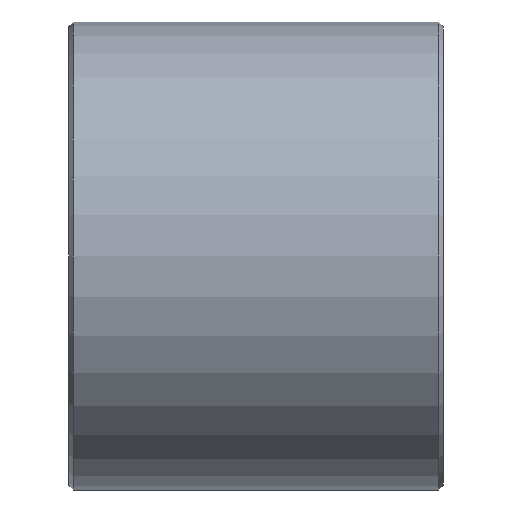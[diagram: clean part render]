
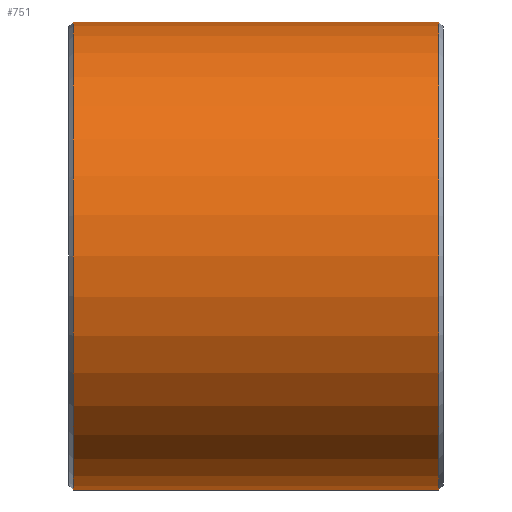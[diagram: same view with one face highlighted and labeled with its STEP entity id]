
A CAD part, left-side view. The second image highlights one B-rep face of the part: STEP entity #751.
In plain terms, the highlighted cylindrical face has radius 25 mm (diameter 50 mm), a partial arc.
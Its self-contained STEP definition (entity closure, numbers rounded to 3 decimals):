
#57 = DIRECTION ( 'NONE',  ( 0., 1., 0. ) ) ;
#158 = DIRECTION ( 'NONE',  ( 0., 0., -1. ) ) ;
#195 = CARTESIAN_POINT ( 'NONE',  ( 0., 65.513, 0. ) ) ;
#215 = VERTEX_POINT ( 'NONE', #391 ) ;
#219 = AXIS2_PLACEMENT_3D ( 'NONE', #195, #493, #389 ) ;
#220 = DIRECTION ( 'NONE',  ( 0., -1., 0. ) ) ;
#262 = CARTESIAN_POINT ( 'NONE',  ( 0., 65.513, 25. ) ) ;
#324 = DIRECTION ( 'NONE',  ( 0., 1., 0. ) ) ;
#341 = VECTOR ( 'NONE', #57, 1000. ) ;
#389 = DIRECTION ( 'NONE',  ( 0., 0., 1. ) ) ;
#391 = CARTESIAN_POINT ( 'NONE',  ( 0., 1., -25. ) ) ;
#455 = LINE ( 'NONE', #262, #1247 ) ;
#459 = EDGE_CURVE ( 'NONE', #546, #815, #668, .T. ) ;
#482 = VERTEX_POINT ( 'NONE', #1246 ) ;
#483 = CARTESIAN_POINT ( 'NONE',  ( 0., -38., 25. ) ) ;
#490 = EDGE_CURVE ( 'NONE', #546, #215, #973, .T. ) ;
#493 = DIRECTION ( 'NONE',  ( 0., 1., 0. ) ) ;
#517 = AXIS2_PLACEMENT_3D ( 'NONE', #823, #220, #1020 ) ;
#546 = VERTEX_POINT ( 'NONE', #1068 ) ;
#577 = EDGE_CURVE ( 'NONE', #815, #482, #455, .T. ) ;
#605 = CYLINDRICAL_SURFACE ( 'NONE', #219, 25. ) ;
#610 = EDGE_LOOP ( 'NONE', ( #1211, #852, #1122, #1194 ) ) ;
#642 = AXIS2_PLACEMENT_3D ( 'NONE', #749, #324, #158 ) ;
#668 = CIRCLE ( 'NONE', #642, 25. ) ;
#749 = CARTESIAN_POINT ( 'NONE',  ( 0., -38., 0. ) ) ;
#751 = ADVANCED_FACE ( 'NONE', ( #1176 ), #605, .T. ) ;
#815 = VERTEX_POINT ( 'NONE', #483 ) ;
#823 = CARTESIAN_POINT ( 'NONE',  ( 0., 1., 0. ) ) ;
#852 = ORIENTED_EDGE ( 'NONE', *, *, #459, .T. ) ;
#973 = LINE ( 'NONE', #1148, #341 ) ;
#1020 = DIRECTION ( 'NONE',  ( 0., 0., 1. ) ) ;
#1068 = CARTESIAN_POINT ( 'NONE',  ( 0., -38., -25. ) ) ;
#1079 = EDGE_CURVE ( 'NONE', #482, #215, #1189, .T. ) ;
#1122 = ORIENTED_EDGE ( 'NONE', *, *, #577, .T. ) ;
#1148 = CARTESIAN_POINT ( 'NONE',  ( 0., 65.513, -25. ) ) ;
#1154 = DIRECTION ( 'NONE',  ( 0., 1., 0. ) ) ;
#1176 = FACE_OUTER_BOUND ( 'NONE', #610, .T. ) ;
#1189 = CIRCLE ( 'NONE', #517, 25. ) ;
#1194 = ORIENTED_EDGE ( 'NONE', *, *, #1079, .T. ) ;
#1211 = ORIENTED_EDGE ( 'NONE', *, *, #490, .F. ) ;
#1246 = CARTESIAN_POINT ( 'NONE',  ( 0., 1., 25. ) ) ;
#1247 = VECTOR ( 'NONE', #1154, 1000. ) ;
